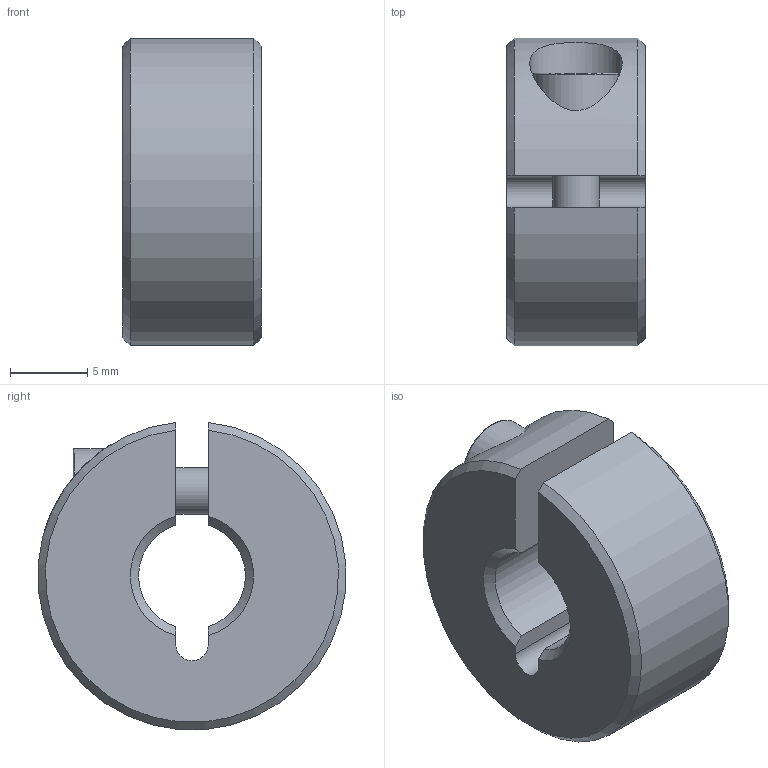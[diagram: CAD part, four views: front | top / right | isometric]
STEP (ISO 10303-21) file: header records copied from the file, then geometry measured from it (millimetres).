
FILE_DESCRIPTION( ( 'STEP AP203' ), '1' );
FILE_NAME( 'C:/Temp/Ganter_Step_05_03_2020/data/3_2/gn706_3/gn706_3_st/Threaded set collar GN 706.3-20-M8x1-ST.stp', '2020-03-13T05:33:32', ( 'License CC BY-ND 4.0' ), ( 'CADENAS' ), ' ', 'PARTsolutions', ' ' );
FILE_SCHEMA( ( 'CONFIG_CONTROL_DESIGN' ) );
Length unit declared in the file: millimetre
Products named in the file (1): _Threaded set collar GN 706.3-20-M8x1-ST
Bounding box: 9 x 19.94 x 19.91 mm (x, y, z)
Volume: 2281.6 mm3; surface area: 1543.3 mm2
Topology: 1 solids, 1 shells, 31 faces, 74 edges, 49 vertices
Faces by surface type: plane 16, cylinder 8, cone 6, torus 1
Full cylindrical faces by diameter (mm): 3 x1, 3.3 x1, 5.5 x1, 6 x1
Entity records: 1002 total; most frequent: CARTESIAN_POINT 253, DIRECTION 142, ORIENTED_EDGE 138, EDGE_CURVE 69, AXIS2_PLACEMENT_3D 54, VERTEX_POINT 49, EDGE_LOOP 42, FACE_OUTER_BOUND 36
